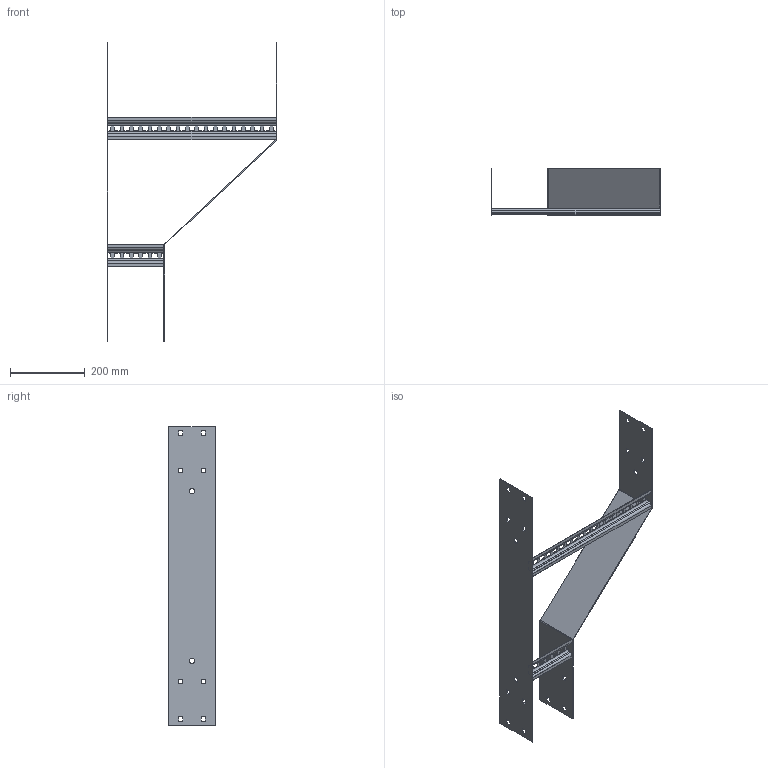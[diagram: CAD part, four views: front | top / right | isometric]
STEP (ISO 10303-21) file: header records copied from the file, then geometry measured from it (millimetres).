
FILE_DESCRIPTION (( 'STEP AP203' ), '1' );
FILE_NAME ('N3 LHR450150.STEP', '2024-08-27T06:07:16', ( '' ), ( '' ), 'SwSTEP 2.0', 'SolidWorks 2023', '' );
FILE_SCHEMA (( 'CONFIG_CONTROL_DESIGN' ));
Length unit declared in the file: millimetre
Products named in the file (5): N3 Back Plate_800; Ladder Rung_Ladder Rung -  150mm; N3 LHR450150; Ladder Rung_Ladder Rung -  450mm; N3 Reducer side plate_LHR150x450
Assembly tree (4 placements, depth 2):
  N3 LHR450150
    N3 Reducer side plate_LHR150x450
    Ladder Rung_Ladder Rung -  150mm
    Ladder Rung_Ladder Rung -  450mm
    N3 Back Plate_800
Bounding box: 454 x 124 x 800 mm (x, y, z)
Volume: 487274.9 mm3; surface area: 517622.5 mm2
Topology: 4 solids, 4 shells, 280 faces, 736 edges, 464 vertices
Faces by surface type: plane 252, cylinder 28
Entity records: 9087 total; most frequent: CARTESIAN_POINT 1487, ORIENTED_EDGE 1472, DIRECTION 1366, EDGE_CURVE 736, LINE 680, VECTOR 680, VERTEX_POINT 464, EDGE_LOOP 364
